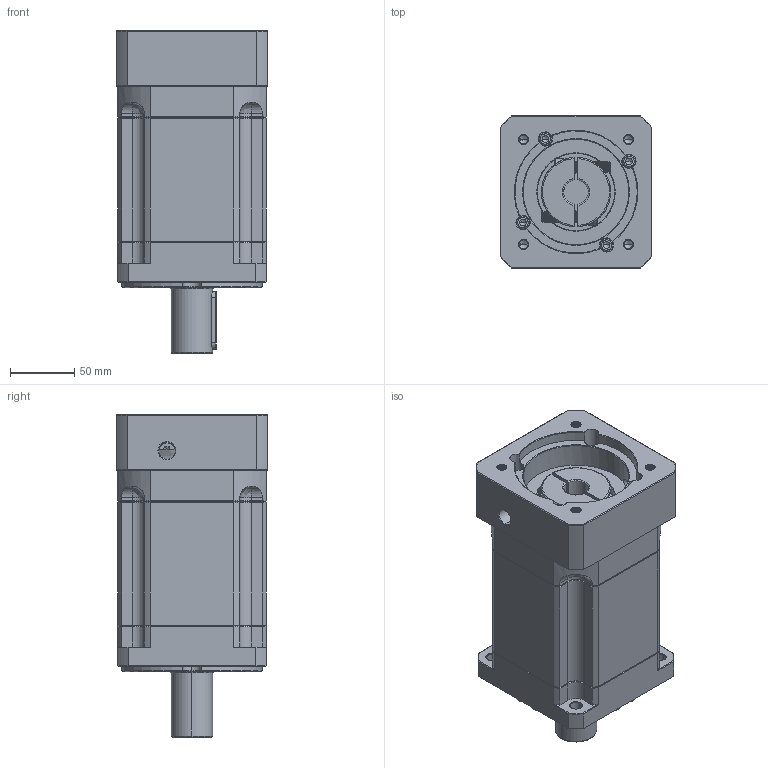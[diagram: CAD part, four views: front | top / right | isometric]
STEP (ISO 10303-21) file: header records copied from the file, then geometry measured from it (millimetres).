
FILE_DESCRIPTION (( 'STEP AP214' ), '1' );
FILE_NAME ('ZB115A-D32-L3-19-95-115-M8.step', '2023-03-02T09:02:05', ( '' ), ( 'Microsoft' ), 'SwSTEP 2.0', 'SolidWorks 2016', '' );
FILE_SCHEMA (( 'AUTOMOTIVE_DESIGN' ));
Length unit declared in the file: millimetre
Products named in the file (1): ZB115A-D32-L3-19-95-115-M8
Bounding box: 118 x 118 x 250.5 mm (x, y, z)
Volume: 2264417.2 mm3; surface area: 194278 mm2
Topology: 6 solids, 6 shells, 2143 faces, 5582 edges, 3528 vertices
Faces by surface type: plane 964, cylinder 450, cone 384, bspline 345
Entity records: 114820 total; most frequent: CARTESIAN_POINT 41683, ORIENTED_EDGE 11096, DIRECTION 9092, EDGE_CURVE 5548, VERTEX_POINT 3528, LINE 3390, VECTOR 3390, AXIS2_PLACEMENT_3D 2851
